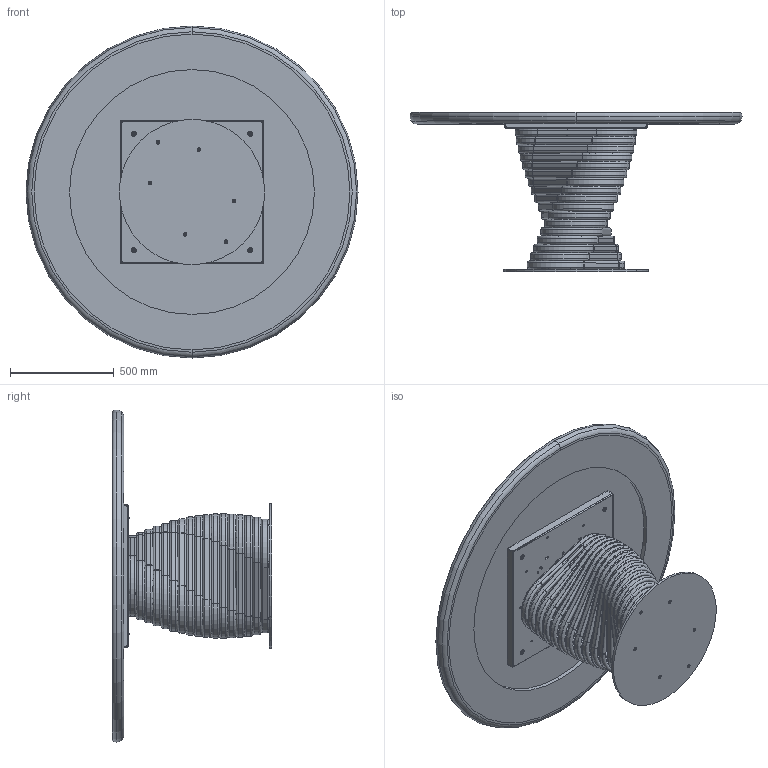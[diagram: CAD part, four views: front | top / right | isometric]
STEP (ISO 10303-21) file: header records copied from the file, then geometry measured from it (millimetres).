
FILE_DESCRIPTION (( 'STEP AP203' ), '1' );
FILE_NAME ('RO07K_Rotolo_d.160_King.STEP', '2024-08-02T07:04:16', ( '' ), ( '' ), 'SwSTEP 2.0', 'SolidWorks 2022', '' );
FILE_SCHEMA (( 'CONFIG_CONTROL_DESIGN' ));
Length unit declared in the file: millimetre
Products named in the file (15): RO07K_Rotolo_d.160_King; rondella M8_8X24; ROB200000-00-PIASTRA BASE_Ø70cm; COLLO TELAIO UNIVERSALE TTAV0801 CON FERRAMENTA_MTG TOP LEGNO-MARMO-KING; TTAV0801-02-TELAIO UNIVERSALE TONDO; M8xXXmm_M8x55mm; ROBX00000INF-00-Anello rotolo INFERIORE_Default<A macchina>; ROBX00000MED-00-Anello rotolo MEDIO_Default<A macchina>; TTAV0801-02-TELAIO UNIVERSALE TONDO-VASSOIO; K91-00-PIANO SOLO CERAMICA D.156.7cm X PIANO C BORDO; ROBX00000SUP-00-Anello rotolo SUPERIORE_Default<A macchina>; W91-01-PIANO KING BORDO Ø160 SAGOMATO LACCATO; ROBX00000-00-ROTOLO BASE 17 ANELLI; ASSIEME PIANO KING_PIANO+CERAMICA DIAM160; TTAV0801 TELAIO UNIVERSALE TONDO-PIASTRINA
Assembly tree (37 placements, depth 4):
  RO07K_Rotolo_d.160_King
    ROB200000-00-PIASTRA BASE_Ø70cm
    ROBX00000-00-ROTOLO BASE 17 ANELLI
      ROBX00000INF-00-Anello rotolo INFERIORE_Default<A macchina>
      ROBX00000MED-00-Anello rotolo MEDIO_Default<A macchina>  x15
      ROBX00000SUP-00-Anello rotolo SUPERIORE_Default<A macchina>
    COLLO TELAIO UNIVERSALE TTAV0801 CON FERRAMENTA_MTG TOP LEGNO-MARMO-KING
      TTAV0801-02-TELAIO UNIVERSALE TONDO
        TTAV0801-02-TELAIO UNIVERSALE TONDO-VASSOIO
        TTAV0801 TELAIO UNIVERSALE TONDO-PIASTRINA  x4
      rondella M8_8X24  x4
      M8xXXmm_M8x55mm  x4
    ASSIEME PIANO KING_PIANO+CERAMICA DIAM160
      W91-01-PIANO KING BORDO Ø160 SAGOMATO LACCATO
      K91-00-PIANO SOLO CERAMICA D.156.7cm X PIANO C BORDO
Bounding box: 1600 x 768 x 1600 mm (x, y, z)
Volume: 100043271.7 mm3; surface area: 15067394.2 mm2
Topology: 84 solids, 84 shells, 1414 faces, 3586 edges, 2324 vertices
Faces by surface type: cylinder 586, plane 562, torus 194, cone 72
Entity records: 22039 total; most frequent: CARTESIAN_POINT 4962, DIRECTION 3226, ORIENTED_EDGE 3030, EDGE_CURVE 1515, AXIS2_PLACEMENT_3D 1190, VERTEX_POINT 982, LINE 846, VECTOR 846
